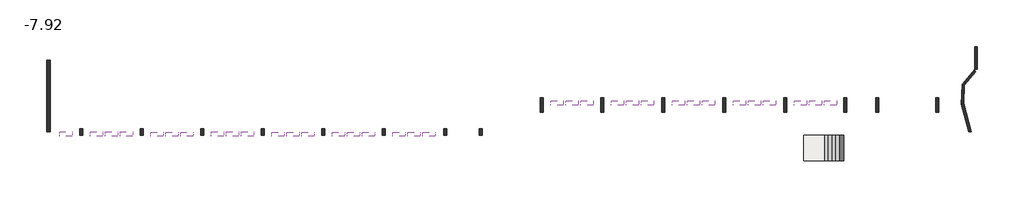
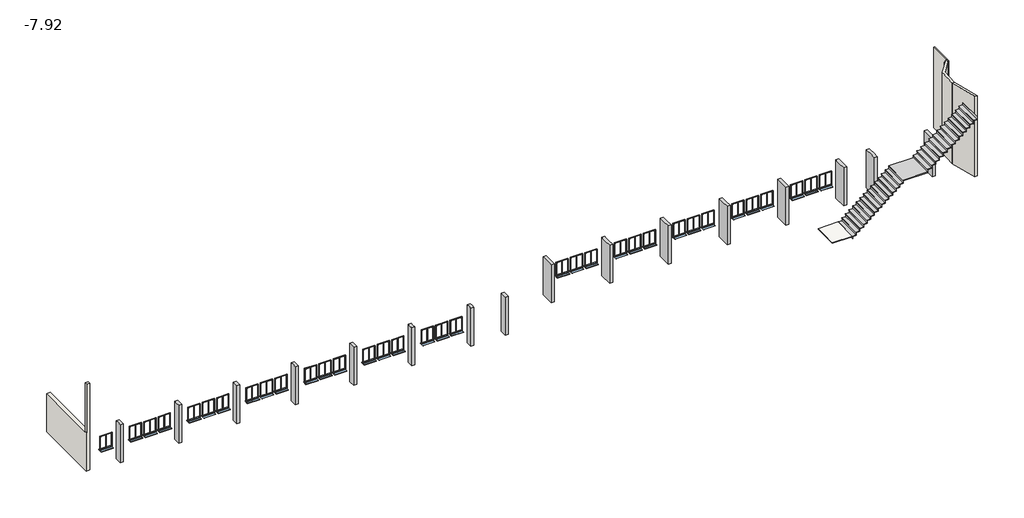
# One storey, incomplete: 34 windows, 16 columns, 5 walls, 1 slab, 1 stair flight.
"""IFC4 building model written with IfcOpenShell, lengths in millimetres."""

from ifc_helpers import new_model, si_unit, frame, origin, place, context, project, spatial, polyline, circle_curve, ellipse_curve, faceted_brep, transform, mapped, element, save
from ifc_brep_helpers import plane_surface, cylinder_surface, revolved_surface, advanced_brep
from components import non_monolithic_landing_f33ca80b, stair_flight_284d5711, finestra_doppia_125_x_100_cm_3431f0ed

model = new_model("IFC4")

# Units and contexts
model_context = context("Model", 3, world=origin())
ifc_project = project(units=[si_unit("LENGTHUNIT", "METRE", prefix="MILLI")], contexts=[model_context])

# Site, building, storey
site = spatial("IfcSite", under=ifc_project)
building = spatial("IfcBuilding", under=site)
storey = spatial("IfcBuildingStorey", under=building, Name="-7.92", Elevation=-7920.0)

# Columns
placement = place(None, origin())
element("IfcColumn", 1, ObjectType="Pilastro in calcestruzzo - Rettangolare : 250 x 1150", at=placement, inside=storey, context=model_context, shape_type="Brep", body=[
    faceted_brep([(68487.3573777, 26913.3920265, -7920.0), (68487.3573777, 25763.3920265, -7920.0), (68237.3573777, 25763.3920265, -7920.0), (68237.3573777, 26913.3920265, -7920.0), (68487.3573777, 26913.3920265, -4580.0), (68487.3573777, 26688.3920265, -4580.0), (68487.3573777, 26388.3920265, -4580.0), (68487.3573777, 25763.3920265, -4580.0), (68237.3573777, 25763.3920265, -4580.0), (68237.3573777, 26388.3920265, -4580.0), (68237.3573777, 26688.3920265, -4580.0), (68237.3573777, 26913.3920265, -4580.0)], [[[0, 1, 2, 3]], [[4, 5, 6, 7, 1, 0]], [[7, 8, 2, 1]], [[8, 9, 10, 11, 3, 2]], [[11, 4, 0, 3]], [[4, 11, 10, 9, 8, 7, 6, 5]]]),
])
element("IfcColumn", 2, ObjectType="Pilastro in calcestruzzo - Rettangolare : 250 x 1150", at=placement, inside=storey, context=model_context, shape_type="Brep", body=[
    faceted_brep([(53897.3573777, 26913.3920265, -7920.0), (53897.3573777, 25763.3920265, -7920.0), (53647.3573777, 25763.3920265, -7920.0), (53647.3573777, 26913.3920265, -7920.0), (53897.3573777, 26913.3920265, -4580.0), (53897.3573777, 26688.3920265, -4580.0), (53897.3573777, 26388.3920265, -4580.0), (53897.3573777, 25763.3920265, -4580.0), (53647.3573777, 25763.3920265, -4580.0), (53647.3573777, 26388.3920265, -4580.0), (53647.3573777, 26688.3920265, -4580.0), (53647.3573777, 26913.3920265, -4580.0), (53672.3573777, 26913.3920265, -4580.0), (53872.3573777, 26913.3920265, -4580.0)], [[[0, 1, 2, 3]], [[4, 5, 6, 7, 1, 0]], [[7, 8, 2, 1]], [[8, 9, 10, 11, 3, 2]], [[11, 12, 13, 4, 0, 3]], [[4, 13, 12, 11, 10, 9, 8, 7, 6, 5]]]),
])
element("IfcColumn", 3, ObjectType="Pilastro in calcestruzzo - Rettangolare : 250 x 1150", at=placement, inside=storey, context=model_context, shape_type="Brep", body=[
    faceted_brep([(58737.3573777, 26913.3920265, -7920.0), (58737.3573777, 25763.3920265, -7920.0), (58487.3573777, 25763.3920265, -7920.0), (58487.3573777, 26913.3920265, -7920.0), (58737.3573777, 26913.3920265, -4580.0), (58737.3573777, 26688.3920265, -4580.0), (58737.3573777, 26388.3920265, -4580.0), (58737.3573777, 25763.3920265, -4580.0), (58487.3573777, 25763.3920265, -4580.0), (58487.3573777, 26388.3920265, -4580.0), (58487.3573777, 26688.3920265, -4580.0), (58487.3573777, 26913.3920265, -4580.0)], [[[0, 1, 2, 3]], [[4, 5, 6, 7, 1, 0]], [[7, 8, 2, 1]], [[8, 9, 10, 11, 3, 2]], [[11, 4, 0, 3]], [[4, 11, 10, 9, 8, 7, 6, 5]]]),
])
element("IfcColumn", 4, ObjectType="Pilastro in calcestruzzo - Rettangolare : 250 x 1150", at=placement, inside=storey, context=model_context, shape_type="Brep", body=[
    faceted_brep([(63607.3573777, 26913.3920265, -7920.0), (63607.3573777, 25763.3920265, -7920.0), (63357.3573777, 25763.3920265, -7920.0), (63357.3573777, 26913.3920265, -7920.0), (63607.3573777, 26913.3920265, -4580.0), (63607.3573777, 26688.3920265, -4580.0), (63607.3573777, 26388.3920265, -4580.0), (63607.3573777, 25763.3920265, -4580.0), (63357.3573777, 25763.3920265, -4580.0), (63357.3573777, 26388.3920265, -4580.0), (63357.3573777, 26688.3920265, -4580.0), (63357.3573777, 26913.3920265, -4580.0)], [[[0, 1, 2, 3]], [[4, 5, 6, 7, 1, 0]], [[7, 8, 2, 1]], [[8, 9, 10, 11, 3, 2]], [[11, 4, 0, 3]], [[4, 11, 10, 9, 8, 7, 6, 5]]]),
])
element("IfcColumn", 5, ObjectType="Pilastro in calcestruzzo - Rettangolare : 250 x 1150", at=placement, inside=storey, context=model_context, shape_type="Brep", body=[
    faceted_brep([(73357.3573777, 26913.3920265, -7920.0), (73357.3573777, 25763.3920265, -7920.0), (73107.3573777, 25763.3920265, -7920.0), (73107.3573777, 26913.3920265, -7920.0), (73357.3573777, 26913.3920265, -4580.0), (73357.3573777, 26688.3920265, -4580.0), (73357.3573777, 26388.3920265, -4580.0), (73357.3573777, 25763.3920265, -4580.0), (73107.3573777, 25763.3920265, -4580.0), (73107.3573777, 26388.3920265, -4580.0), (73107.3573777, 26688.3920265, -4580.0), (73107.3573777, 26913.3920265, -4580.0)], [[[0, 1, 2, 3]], [[4, 5, 6, 7, 1, 0]], [[7, 8, 2, 1]], [[8, 9, 10, 11, 3, 2]], [[11, 4, 0, 3]], [[4, 11, 10, 9, 8, 7, 6, 5]]]),
])
element("IfcColumn", 6, ObjectType="Pilastro in calcestruzzo - Rettangolare : 250 x 1150", at=placement, inside=storey, context=model_context, shape_type="Brep", body=[
    faceted_brep([(78157.3573777, 26913.3920265, -7920.0), (78157.3573777, 25763.3920265, -7920.0), (77907.3573777, 25763.3920265, -7920.0), (77907.3573777, 26913.3920265, -7920.0), (78157.3573777, 26913.3920265, -4580.0), (78157.3573777, 25763.3920265, -4580.0), (77907.3573777, 25763.3920265, -4580.0), (77907.3573777, 26388.3920265, -4580.0), (77907.3573777, 26688.3920265, -4580.0), (77907.3573777, 26913.3920265, -4580.0)], [[[0, 1, 2, 3]], [[4, 5, 1, 0]], [[5, 6, 2, 1]], [[6, 7, 8, 9, 3, 2]], [[9, 4, 0, 3]], [[4, 9, 8, 7, 6, 5]]]),
])
element("IfcColumn", 7, ObjectType="Pilastro in calcestruzzo - Rettangolare : 250 x 1150", at=placement, inside=storey, context=model_context, shape_type="Brep", body=[
    faceted_brep([(80707.3573777, 26913.3920265, -7920.0), (80707.3573777, 25763.3920265, -7920.0), (80457.3573777, 25763.3920265, -7920.0), (80457.3573777, 26913.3920265, -7920.0), (80707.3573777, 26913.3920265, -4580.0), (80707.3573777, 26688.3920265, -4580.0), (80707.3573777, 26388.3920265, -4580.0), (80707.3573777, 25763.3920265, -4580.0), (80457.3573777, 25763.3920265, -4580.0), (80457.3573777, 26388.3920265, -4580.0), (80457.3573777, 26688.3920265, -4580.0), (80457.3573777, 26913.3920265, -4580.0)], [[[0, 1, 2, 3]], [[4, 5, 6, 7, 1, 0]], [[7, 8, 2, 1]], [[8, 9, 10, 11, 3, 2]], [[11, 4, 0, 3]], [[4, 11, 10, 9, 8, 7, 6, 5]]]),
])
element("IfcColumn", 8, ObjectType="Pilastro in calcestruzzo - Rettangolare : 250 x 1150", at=placement, inside=storey, context=model_context, shape_type="Brep", body=[
    faceted_brep([(85507.3573777, 26913.3920265, -7920.0), (85507.3573777, 25763.3920265, -7920.0), (85257.3573777, 25763.3920265, -7920.0), (85257.3573777, 26913.3920265, -7920.0), (85507.3573777, 26913.3920265, -4580.0), (85507.3573777, 26688.3920265, -4580.0), (85507.3573777, 26388.3920265, -4580.0), (85507.3573777, 25763.3920265, -4580.0), (85257.3573777, 25763.3920265, -4580.0), (85257.3573777, 26388.3920265, -4580.0), (85257.3573777, 26688.3920265, -4580.0), (85257.3573777, 26913.3920265, -4580.0)], [[[0, 1, 2, 3]], [[4, 5, 6, 7, 1, 0]], [[7, 8, 2, 1]], [[8, 9, 10, 11, 3, 2]], [[11, 4, 0, 3]], [[4, 11, 10, 9, 8, 7, 6, 5]]]),
])
element("IfcColumn", 9, ObjectType="Pilastro in calcestruzzo - Rettangolare : 250 x 550", at=placement, inside=storey, context=model_context, shape_type="Brep", body=[
    faceted_brep([(17067.3573777, 24463.3920265, -7920.0), (17067.3573777, 23913.3920265, -7920.0), (16817.3573777, 23913.3920265, -7920.0), (16817.3573777, 24463.3920265, -7920.0), (17067.3573777, 24463.3920265, -4580.0), (17067.3573777, 23913.3920265, -4580.0), (16817.3573777, 23913.3920265, -4580.0), (16817.3573777, 24213.3920265, -4580.0), (16817.3573777, 24463.3920265, -4580.0)], [[[0, 1, 2, 3]], [[4, 5, 1, 0]], [[5, 6, 2, 1]], [[6, 7, 8, 3, 2]], [[8, 4, 0, 3]], [[4, 8, 7, 6, 5]]]),
])
element("IfcColumn", 10, ObjectType="Pilastro in calcestruzzo - Rettangolare : 250 x 550", at=placement, inside=storey, context=model_context, shape_type="Brep", body=[
    faceted_brep([(49007.3573777, 24463.3920265, -7920.0), (49007.3573777, 23913.3920265, -7920.0), (48757.3573777, 23913.3920265, -7920.0), (48757.3573777, 24463.3920265, -7920.0), (49007.3573777, 24463.3920265, -4580.0), (49007.3573777, 24188.3920265, -4580.0), (49007.3573777, 23913.3920265, -4580.0), (48757.3573777, 23913.3920265, -4580.0), (48757.3573777, 24188.3920265, -4580.0), (48757.3573777, 24463.3920265, -4580.0)], [[[0, 1, 2, 3]], [[4, 5, 6, 1, 0]], [[6, 7, 2, 1]], [[7, 8, 9, 3, 2]], [[9, 4, 0, 3]], [[4, 9, 8, 7, 6, 5]]]),
])
element("IfcColumn", 11, ObjectType="Pilastro in calcestruzzo - Rettangolare : 250 x 550", at=placement, inside=storey, context=model_context, shape_type="Brep", body=[
    faceted_brep([(21907.3573777, 24463.3920265, -7920.0), (21907.3573777, 23913.3920265, -7920.0), (21657.3573777, 23913.3920265, -7920.0), (21657.3573777, 24463.3920265, -7920.0), (21907.3573777, 24463.3920265, -4580.0), (21907.3573777, 24188.3920265, -4580.0), (21907.3573777, 23913.3920265, -4580.0), (21657.3573777, 23913.3920265, -4580.0), (21657.3573777, 24213.3920265, -4580.0), (21657.3573777, 24463.3920265, -4580.0)], [[[0, 1, 2, 3]], [[4, 5, 6, 1, 0]], [[6, 7, 2, 1]], [[7, 8, 9, 3, 2]], [[9, 4, 0, 3]], [[4, 9, 8, 7, 6, 5]]]),
])
element("IfcColumn", 12, ObjectType="Pilastro in calcestruzzo - Rettangolare : 250 x 550", at=placement, inside=storey, context=model_context, shape_type="Brep", body=[
    faceted_brep([(26747.3573777, 24463.3920265, -7920.0), (26747.3573777, 23913.3920265, -7920.0), (26497.3573777, 23913.3920265, -7920.0), (26497.3573777, 24463.3920265, -7920.0), (26747.3573777, 24463.3920265, -4580.0), (26747.3573777, 24213.3920265, -4580.0), (26747.3573777, 23913.3920265, -4580.0), (26497.3573777, 23913.3920265, -4580.0), (26497.3573777, 24188.3920265, -4580.0), (26497.3573777, 24463.3920265, -4580.0)], [[[0, 1, 2, 3]], [[4, 5, 6, 1, 0]], [[6, 7, 2, 1]], [[7, 8, 9, 3, 2]], [[9, 4, 0, 3]], [[4, 9, 8, 7, 6, 5]]]),
])
element("IfcColumn", 13, ObjectType="Pilastro in calcestruzzo - Rettangolare : 250 x 550", at=placement, inside=storey, context=model_context, shape_type="Brep", body=[
    faceted_brep([(31587.3573777, 24463.3920265, -7920.0), (31587.3573777, 23913.3920265, -7920.0), (31337.3573777, 23913.3920265, -7920.0), (31337.3573777, 24463.3920265, -7920.0), (31587.3573777, 24463.3920265, -4580.0), (31587.3573777, 24188.3920265, -4580.0), (31587.3573777, 23913.3920265, -4580.0), (31337.3573777, 23913.3920265, -4580.0), (31337.3573777, 24213.3920265, -4580.0), (31337.3573777, 24463.3920265, -4580.0)], [[[0, 1, 2, 3]], [[4, 5, 6, 1, 0]], [[6, 7, 2, 1]], [[7, 8, 9, 3, 2]], [[9, 4, 0, 3]], [[4, 9, 8, 7, 6, 5]]]),
])
element("IfcColumn", 14, ObjectType="Pilastro in calcestruzzo - Rettangolare : 250 x 550", at=placement, inside=storey, context=model_context, shape_type="Brep", body=[
    faceted_brep([(36427.3573777, 24463.3920265, -7920.0), (36427.3573777, 23913.3920265, -7920.0), (36177.3573777, 23913.3920265, -7920.0), (36177.3573777, 24463.3920265, -7920.0), (36427.3573777, 24463.3920265, -4580.0), (36427.3573777, 24188.3920265, -4580.0), (36427.3573777, 23913.3920265, -4580.0), (36177.3573777, 23913.3920265, -4580.0), (36177.3573777, 24188.3920265, -4580.0), (36177.3573777, 24463.3920265, -4580.0)], [[[0, 1, 2, 3]], [[4, 5, 6, 1, 0]], [[6, 7, 2, 1]], [[7, 8, 9, 3, 2]], [[9, 4, 0, 3]], [[4, 9, 8, 7, 6, 5]]]),
])
element("IfcColumn", 15, ObjectType="Pilastro in calcestruzzo - Rettangolare : 250 x 550", at=placement, inside=storey, context=model_context, shape_type="Brep", body=[
    faceted_brep([(41267.3573777, 24463.3920265, -7920.0), (41267.3573777, 23913.3920265, -7920.0), (41017.3573777, 23913.3920265, -7920.0), (41017.3573777, 24463.3920265, -7920.0), (41267.3573777, 24463.3920265, -4580.0), (41267.3573777, 24188.3920265, -4580.0), (41267.3573777, 23913.3920265, -4580.0), (41017.3573777, 23913.3920265, -4580.0), (41017.3573777, 24188.3920265, -4580.0), (41017.3573777, 24463.3920265, -4580.0)], [[[0, 1, 2, 3]], [[4, 5, 6, 1, 0]], [[6, 7, 2, 1]], [[7, 8, 9, 3, 2]], [[9, 4, 0, 3]], [[4, 9, 8, 7, 6, 5]]]),
])
element("IfcColumn", 16, ObjectType="Pilastro in calcestruzzo - Rettangolare : 250 x 550", at=placement, inside=storey, context=model_context, shape_type="Brep", body=[
    faceted_brep([(46167.3573777, 24463.3920265, -7920.0), (46167.3573777, 23913.3920265, -7920.0), (45917.3573777, 23913.3920265, -7920.0), (45917.3573777, 24463.3920265, -7920.0), (46167.3573777, 24463.3920265, -4580.0), (46167.3573777, 24188.3920265, -4580.0), (46167.3573777, 23913.3920265, -4580.0), (45917.3573777, 23913.3920265, -4580.0), (45917.3573777, 24188.3920265, -4580.0), (45917.3573777, 24463.3920265, -4580.0)], [[[0, 1, 2, 3]], [[4, 5, 6, 1, 0]], [[6, 7, 2, 1]], [[7, 8, 9, 3, 2]], [[9, 4, 0, 3]], [[4, 9, 8, 7, 6, 5]]]),
])

# Slab
non_monolithic_landing_shape = non_monolithic_landing_f33ca80b(model_context)
element("IfcSlab", 17, ObjectType="Non-Monolithic Landing", at=placement, inside=storey, context=model_context, shape_type="MappedRepresentation", body=[
    mapped(non_monolithic_landing_shape, transform((0.0, 0.0, 0.0), x_axis=(1.0, 0.0, 0.0), y_axis=(0.0, 1.0, 0.0), z_axis=(0.0, 0.0, 1.0))),
])

# Stair flight
stair_flight_shape = stair_flight_284d5711(model_context)
element("IfcStairFlight", 18, ObjectType="2\" Tread 1\" Nosing 1/4\" Riser", at=placement, inside=storey, context=model_context, shape_type="MappedRepresentation", body=[
    mapped(stair_flight_shape, transform((0.0, 0.0, 0.0), x_axis=(1.0, 0.0, 0.0), y_axis=(0.0, 1.0, 0.0), z_axis=(0.0, 0.0, 1.0))),
])

# Walls
element("IfcWall", 19, ObjectType="muro 20cm", at=placement, inside=storey, context=model_context, shape_type="Brep", body=[
    faceted_brep([(88607.3573777, 29223.3920265, -7920.0), (88607.3573777, 31021.9947423, -7920.0), (88607.3573777, 31021.9947423, -3920.0), (88607.3573777, 29223.3920265, -3920.0), (88407.3573777, 29223.3920265, -7920.0), (88407.3573777, 29223.3920265, -869.2731189), (88407.3573777, 31021.9947423, -869.2731189), (88407.3573777, 31021.9947423, -7920.0), (88411.4542462, 29223.3920265, -7920.0), (88507.3573777, 29223.3920265, -3920.0), (88507.3573777, 29223.3920265, -870.0), (88411.4542462, 29223.3920265, -869.3028982), (88507.3573777, 31021.9947423, -3920.0), (88507.3573777, 31021.9947423, -870.0)], [[[0, 1, 2, 3]], [[4, 5, 6, 7]], [[1, 0, 8, 4, 7]], [[0, 3, 9, 10, 11, 5, 4, 8]], [[3, 2, 12, 9]], [[9, 12, 13, 10]], [[2, 1, 7, 6, 13, 12]], [[13, 6, 5, 11, 10]]]),
])
element("IfcWall", 20, ObjectType="muro 20cm", at=placement, inside=storey, context=model_context, shape_type="AdvancedBrep", body=[
    advanced_brep(
    [(88132.3754849, 29023.3920265, -7920.0), (88407.3573777, 29023.3920265, -7920.0), (88469.5354842, 29023.3920265, -7920.0), (88607.3573777, 29023.3920265, -7920.0), (88607.3573777, 29023.3920265, -3920.0), (88507.3573777, 29023.3920265, -3920.0), (88507.3573777, 29023.3920265, -870.0), (88469.5354842, 29023.3920265, -869.7250798), (88407.3573777, 29023.3920265, -869.2731189), (88132.3754849, 29023.3920265, -867.2743273), (88411.4542462, 29223.3920265, -7920.0), (88411.4542462, 29223.3920265, -869.3028982), (88507.3573777, 29223.3920265, -870.0), (88507.3573777, 29223.3920265, -3920.0), (88607.3573777, 29223.3920265, -3920.0), (88607.3573777, 29223.3920265, -7920.0)],
    [
        (0, 1),
        (1, 2),
        (2, 3),
        (3, 4),
        (4, 5),
        (5, 6),
        (6, 7),
        (7, 8),
        (8, 9),
        (9, 0),
        (10, 11),
        (11, 12),
        (12, 13),
        (13, 14),
        (14, 15),
        (15, 10),
        (0, 10, circle_curve(frame((89733.0070866, 27084.5929908, -7920.0), z_axis=(0.0, 0.0, -1.0), x_axis=(1.0, 0.0, 0.0)), 2514.1525859)),
        (15, 3),
        (9, 11, ellipse_curve(frame((89733.0070866, 27084.5929908, -878.9090166), z_axis=(-0.007268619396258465, 0.0, -0.9999735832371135), x_axis=(-0.9999735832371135, 0.0, 0.007268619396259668)), 2514.2190034, 2514.1525859)),
        (14, 4),
        (13, 5),
        (12, 6),
    ],
    [
        plane_surface(frame((88261.8640897, 29023.3920265, -7920.0), z_axis=(0.0, -1.0, 0.0), x_axis=(1.0, 0.0, 0.0))),
        plane_surface(frame((88261.8640897, 29223.3920265, -7920.0), z_axis=(0.0, 1.0, 0.0), x_axis=(-1.0, 0.0, 0.0))),
        plane_surface(frame((88440.1686589, 29023.3920265, -7920.0), z_axis=(0.0, 0.0, -1.0), x_axis=(0.0, 1.0, 0.0))),
        cylinder_surface(frame((89733.0070866, 27084.5929908, -7920.0), z_axis=(0.0, 0.0, 1.0), x_axis=(1.0, 0.0, 0.0)), 2514.1525859),
        plane_surface(frame((88607.3573777, 23913.3920265, -7920.0), z_axis=(1.0, 0.0, 0.0), x_axis=(0.0, 1.0, 0.0))),
        plane_surface(frame((88507.3573777, 29023.3920265, -3920.0), z_axis=(0.0, 0.0, 1.0), x_axis=(0.0, 1.0, 0.0))),
        plane_surface(frame((88507.3573777, 31021.9947423, -120.0), z_axis=(1.0, 0.0, 0.0), x_axis=(0.0, 0.0, 1.0))),
        plane_surface(frame((51362.3573777, 27467.6933844, -600.0), z_axis=(0.007268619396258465, 0.0, 0.9999735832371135), x_axis=(0.0, -1.0, 0.0))),
    ],
    [
        (0, [[1, 2, 3, 4, 5, 6, 7, 8, 9, 10]]),
        (1, [[11, 12, 13, 14, 15, 16]]),
        (2, [[-3, -2, -1, 17, -16, 18]]),
        (3, [[-10, 19, -11, -17]]),
        (4, [[-4, -18, -15, 20]]),
        (5, [[-5, -20, -14, 21]]),
        (6, [[-21, -13, 22, -6]]),
        (7, [[-9, -8, -7, -22, -12, -19]]),
    ],
),
])
element("IfcWall", 21, ObjectType="muro 20cm", at=placement, inside=storey, context=model_context, shape_type="AdvancedBrep", body=[
    advanced_brep(
    [(87500.3137156, 26476.0024043, -7920.0), (87307.3538058, 26423.4051304, -7920.0), (88407.3573777, 29220.8551645, -7920.0), (88407.3573777, 29023.3920265, -7920.0), (88469.5354842, 29023.3920265, -7920.0), (88469.5354842, 29023.3920265, -869.7250798), (87500.3137156, 26476.0024043, -862.6799895), (87307.3538058, 26423.4051304, -861.2774003), (88407.3573777, 29220.8551645, -869.2731189), (88407.3573777, 29023.3920265, -869.2731189)],
    [
        (0, 1),
        (1, 2, circle_curve(frame((89733.0070866, 27084.5929908, -7920.0), z_axis=(0.0, 0.0, -1.0), x_axis=(1.0, 0.0, 0.0)), 2514.1525859)),
        (2, 3),
        (3, 4),
        (4, 0, circle_curve(frame((89733.0070866, 27084.5929908, -7920.0), z_axis=(0.0, 0.0, 1.0), x_axis=(1.0, 0.0, 0.0)), 2314.1525859)),
        (5, 6, ellipse_curve(frame((89733.0070866, 27084.5929908, -878.9090166), z_axis=(0.007268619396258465, 0.0, 0.9999735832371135), x_axis=(0.9999735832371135, 0.0, -0.007268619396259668)), 2314.2137199, 2314.1525859)),
        (6, 0),
        (4, 5),
        (7, 8, ellipse_curve(frame((89733.0070866, 27084.5929908, -878.9090166), z_axis=(-0.007268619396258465, 0.0, -0.9999735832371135), x_axis=(-0.9999735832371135, 0.0, 0.007268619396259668)), 2514.2190034, 2514.1525859)),
        (8, 2),
        (1, 7),
        (6, 7),
        (8, 9),
        (9, 3),
        (9, 5),
    ],
    [
        plane_surface(frame((92047.1596725, 27084.5929908, -7920.0), z_axis=(0.0, 0.0, -1.0), x_axis=(0.0, 1.0, 0.0))),
        revolved_surface(polyline([(92047.1596725, 27084.5929908, -7920.0), (92047.1596725, 27084.5929908, -862.0878778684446)]), (89733.0070866, 27084.5929908, -7920.0), (0.0, 0.0, -1.0)),
        cylinder_surface(frame((89733.0070866, 27084.5929908, -7920.0), z_axis=(0.0, 0.0, 1.0), x_axis=(1.0, 0.0, 0.0)), 2514.1525859),
        plane_surface(frame((87307.3538058, 26423.4051304, -3920.0), z_axis=(0.2629863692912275, -0.9647995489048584, 0.0), x_axis=(0.0, 0.0, -1.0))),
        plane_surface(frame((88407.3573777, 30558.5318453, -8120.0), z_axis=(1.0, 0.0, 0.0), x_axis=(0.0, 1.0, 0.0))),
        plane_surface(frame((89942.4971965, 29023.3920265, -8120.0), z_axis=(0.0, 1.0, 0.0), x_axis=(-1.0, 0.0, 0.0))),
        plane_surface(frame((51362.3573777, 27467.6933844, -600.0), z_axis=(0.007268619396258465, 0.0, 0.9999735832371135), x_axis=(0.0, -1.0, 0.0))),
    ],
    [
        (0, [[1, 2, 3, 4, 5]]),
        (1, [[6, 7, -5, 8]]),
        (2, [[9, 10, -2, 11]]),
        (3, [[12, -11, -1, -7]]),
        (4, [[13, 14, -3, -10]]),
        (5, [[15, -8, -4, -14]]),
        (6, [[-6, -15, -13, -9, -12]]),
    ],
),
])
element("IfcWall", 22, ObjectType="muro 20cm", at=placement, inside=storey, context=model_context, shape_type="Brep", body=[
    faceted_brep([(87307.3573571, 26423.3920209, -861.2774262), (87307.3573571, 26423.3920209, -7920.0), (87910.0846283, 24213.3920265, -7920.0), (87910.0846283, 24213.3920265, -865.658537), (87500.3101214, 26476.0155021, -7920.0), (87500.3101214, 26476.0155021, -862.6799634), (88117.389251, 24213.3920265, -867.1653952), (88117.389251, 24213.3920265, -7920.0)], [[[0, 1, 2, 3]], [[4, 5, 6, 7]], [[2, 1, 4, 7]], [[0, 5, 4, 1]], [[0, 3, 6, 5]], [[3, 2, 7, 6]]]),
])
element("IfcWall", 23, ObjectType="muro 30cm", at=placement, inside=storey, context=model_context, shape_type="Brep", body=[
    faceted_brep([(14467.3573777, 24223.3920265, -7920.0), (14467.3573777, 29913.3920265, -7920.0), (14467.3573777, 29913.3920265, -4580.0), (14467.3573777, 24463.3920265, -4580.0), (14467.3573777, 24463.3920265, -331.8172029), (14467.3573777, 24223.3920265, -331.8172029), (14167.3573777, 24223.3920265, -7920.0), (14167.3573777, 24223.3920265, -4580.0), (14167.3573777, 24463.3920265, -4580.0), (14167.3573777, 29913.3920265, -4580.0), (14167.3573777, 29913.3920265, -7920.0), (14217.3573777, 24223.3920265, -330.0), (14217.3573777, 24223.3920265, -4580.0), (14217.3573777, 24463.3920265, -4580.0), (14217.3573777, 24463.3920265, -330.0)], [[[0, 1, 2, 3, 4, 5]], [[6, 7, 8, 9, 10]], [[1, 0, 6, 10]], [[9, 2, 1, 10]], [[0, 5, 11, 12, 7, 6]], [[13, 14, 4, 3]], [[5, 4, 14, 11]], [[3, 2, 9, 8, 7, 12, 13]], [[11, 14, 13, 12]]]),
])

# Windows
finestra_doppia_125_x_100_cm_shape = finestra_doppia_125_x_100_cm_3431f0ed(model_context)
element("IfcWindow", 24, ObjectType="Finestra Doppia : 125 x 100 cm", at=placement, inside=storey, context=model_context, shape_type="MappedRepresentation", body=[
    mapped(finestra_doppia_125_x_100_cm_shape, transform((18167.3573777, 24070.2547654, -7380.0), x_axis=(-1.0, 0.0, 0.0), y_axis=(0.0, -1.0, 0.0), z_axis=(0.0, 0.0, 1.0))),
])
element("IfcWindow", 25, ObjectType="Finestra Doppia : 125 x 100 cm", at=placement, inside=storey, context=model_context, shape_type="MappedRepresentation", body=[
    mapped(finestra_doppia_125_x_100_cm_shape, transform((19362.3573777, 24070.2547654, -7380.0), x_axis=(-1.0, 0.0, 0.0), y_axis=(0.0, -1.0, 0.0), z_axis=(0.0, 0.0, 1.0))),
])
element("IfcWindow", 26, ObjectType="Finestra Doppia : 125 x 100 cm", at=placement, inside=storey, context=model_context, shape_type="MappedRepresentation", body=[
    mapped(finestra_doppia_125_x_100_cm_shape, transform((20557.3573777, 24070.2547654, -7380.0), x_axis=(-1.0, 0.0, 0.0), y_axis=(0.0, -1.0, 0.0), z_axis=(0.0, 0.0, 1.0))),
])
element("IfcWindow", 27, ObjectType="Finestra Doppia : 125 x 100 cm", at=placement, inside=storey, context=model_context, shape_type="MappedRepresentation", body=[
    mapped(finestra_doppia_125_x_100_cm_shape, transform((54997.3573777, 26545.2547654, -7380.0), x_axis=(-1.0, 0.0, 0.0), y_axis=(0.0, -1.0, 0.0), z_axis=(0.0, 0.0, 1.0))),
])
element("IfcWindow", 28, ObjectType="Finestra Doppia : 125 x 100 cm", at=placement, inside=storey, context=model_context, shape_type="MappedRepresentation", body=[
    mapped(finestra_doppia_125_x_100_cm_shape, transform((56192.3573777, 26545.2547654, -7380.0), x_axis=(-1.0, 0.0, 0.0), y_axis=(0.0, -1.0, 0.0), z_axis=(0.0, 0.0, 1.0))),
])
element("IfcWindow", 29, ObjectType="Finestra Doppia : 125 x 100 cm", at=placement, inside=storey, context=model_context, shape_type="MappedRepresentation", body=[
    mapped(finestra_doppia_125_x_100_cm_shape, transform((57392.3573777, 26545.2547654, -7380.0), x_axis=(-1.0, 0.0, 0.0), y_axis=(0.0, -1.0, 0.0), z_axis=(0.0, 0.0, 1.0))),
])
element("IfcWindow", 30, ObjectType="Finestra Doppia : 125 x 100 cm", at=placement, inside=storey, context=model_context, shape_type="MappedRepresentation", body=[
    mapped(finestra_doppia_125_x_100_cm_shape, transform((59837.3573777, 26545.2547654, -7380.0), x_axis=(-1.0, 0.0, 0.0), y_axis=(0.0, -1.0, 0.0), z_axis=(0.0, 0.0, 1.0))),
])
element("IfcWindow", 31, ObjectType="Finestra Doppia : 125 x 100 cm", at=placement, inside=storey, context=model_context, shape_type="MappedRepresentation", body=[
    mapped(finestra_doppia_125_x_100_cm_shape, transform((61032.3573777, 26545.2547654, -7380.0), x_axis=(-1.0, 0.0, 0.0), y_axis=(0.0, -1.0, 0.0), z_axis=(0.0, 0.0, 1.0))),
])
element("IfcWindow", 32, ObjectType="Finestra Doppia : 125 x 100 cm", at=placement, inside=storey, context=model_context, shape_type="MappedRepresentation", body=[
    mapped(finestra_doppia_125_x_100_cm_shape, transform((62232.3573777, 26545.2547654, -7380.0), x_axis=(-1.0, 0.0, 0.0), y_axis=(0.0, -1.0, 0.0), z_axis=(0.0, 0.0, 1.0))),
])
element("IfcWindow", 33, ObjectType="Finestra Doppia : 125 x 100 cm", at=placement, inside=storey, context=model_context, shape_type="MappedRepresentation", body=[
    mapped(finestra_doppia_125_x_100_cm_shape, transform((64707.3573777, 26545.2547654, -7380.0), x_axis=(-1.0, 0.0, 0.0), y_axis=(0.0, -1.0, 0.0), z_axis=(0.0, 0.0, 1.0))),
])
element("IfcWindow", 34, ObjectType="Finestra Doppia : 125 x 100 cm", at=placement, inside=storey, context=model_context, shape_type="MappedRepresentation", body=[
    mapped(finestra_doppia_125_x_100_cm_shape, transform((65902.3573777, 26545.2547654, -7380.0), x_axis=(-1.0, 0.0, 0.0), y_axis=(0.0, -1.0, 0.0), z_axis=(0.0, 0.0, 1.0))),
])
element("IfcWindow", 35, ObjectType="Finestra Doppia : 125 x 100 cm", at=placement, inside=storey, context=model_context, shape_type="MappedRepresentation", body=[
    mapped(finestra_doppia_125_x_100_cm_shape, transform((67102.3573777, 26545.2547654, -7380.0), x_axis=(-1.0, 0.0, 0.0), y_axis=(0.0, -1.0, 0.0), z_axis=(0.0, 0.0, 1.0))),
])
element("IfcWindow", 36, ObjectType="Finestra Doppia : 125 x 100 cm", at=placement, inside=storey, context=model_context, shape_type="MappedRepresentation", body=[
    mapped(finestra_doppia_125_x_100_cm_shape, transform((69587.3573777, 26545.2547654, -7380.0), x_axis=(-1.0, 0.0, 0.0), y_axis=(0.0, -1.0, 0.0), z_axis=(0.0, 0.0, 1.0))),
])
element("IfcWindow", 37, ObjectType="Finestra Doppia : 125 x 100 cm", at=placement, inside=storey, context=model_context, shape_type="MappedRepresentation", body=[
    mapped(finestra_doppia_125_x_100_cm_shape, transform((70782.3573777, 26545.2547654, -7380.0), x_axis=(-1.0, 0.0, 0.0), y_axis=(0.0, -1.0, 0.0), z_axis=(0.0, 0.0, 1.0))),
])
element("IfcWindow", 38, ObjectType="Finestra Doppia : 125 x 100 cm", at=placement, inside=storey, context=model_context, shape_type="MappedRepresentation", body=[
    mapped(finestra_doppia_125_x_100_cm_shape, transform((71982.3573777, 26545.2547654, -7380.0), x_axis=(-1.0, 0.0, 0.0), y_axis=(0.0, -1.0, 0.0), z_axis=(0.0, 0.0, 1.0))),
])
element("IfcWindow", 39, ObjectType="Finestra Doppia : 125 x 100 cm", at=placement, inside=storey, context=model_context, shape_type="MappedRepresentation", body=[
    mapped(finestra_doppia_125_x_100_cm_shape, transform((74457.3573777, 26545.2547654, -7380.0), x_axis=(-1.0, 0.0, 0.0), y_axis=(0.0, -1.0, 0.0), z_axis=(0.0, 0.0, 1.0))),
])
element("IfcWindow", 40, ObjectType="Finestra Doppia : 125 x 100 cm", at=placement, inside=storey, context=model_context, shape_type="MappedRepresentation", body=[
    mapped(finestra_doppia_125_x_100_cm_shape, transform((75652.3573777, 26545.2547654, -7380.0), x_axis=(-1.0, 0.0, 0.0), y_axis=(0.0, -1.0, 0.0), z_axis=(0.0, 0.0, 1.0))),
])
element("IfcWindow", 41, ObjectType="Finestra Doppia : 125 x 100 cm", at=placement, inside=storey, context=model_context, shape_type="MappedRepresentation", body=[
    mapped(finestra_doppia_125_x_100_cm_shape, transform((76852.3573777, 26545.2547654, -7380.0), x_axis=(-1.0, 0.0, 0.0), y_axis=(0.0, -1.0, 0.0), z_axis=(0.0, 0.0, 1.0))),
])
element("IfcWindow", 42, ObjectType="Finestra Doppia : 125 x 100 cm", at=placement, inside=storey, context=model_context, shape_type="MappedRepresentation", body=[
    mapped(finestra_doppia_125_x_100_cm_shape, transform((23007.3573777, 24045.2547654, -7380.0), x_axis=(-1.0, 0.0, 0.0), y_axis=(0.0, -1.0, 0.0), z_axis=(0.0, 0.0, 1.0))),
])
element("IfcWindow", 43, ObjectType="Finestra Doppia : 125 x 100 cm", at=placement, inside=storey, context=model_context, shape_type="MappedRepresentation", body=[
    mapped(finestra_doppia_125_x_100_cm_shape, transform((24202.3573777, 24045.2547654, -7380.0), x_axis=(-1.0, 0.0, 0.0), y_axis=(0.0, -1.0, 0.0), z_axis=(0.0, 0.0, 1.0))),
])
element("IfcWindow", 44, ObjectType="Finestra Doppia : 125 x 100 cm", at=placement, inside=storey, context=model_context, shape_type="MappedRepresentation", body=[
    mapped(finestra_doppia_125_x_100_cm_shape, transform((25397.3573777, 24045.2547654, -7380.0), x_axis=(-1.0, 0.0, 0.0), y_axis=(0.0, -1.0, 0.0), z_axis=(0.0, 0.0, 1.0))),
])
element("IfcWindow", 45, ObjectType="Finestra Doppia : 125 x 100 cm", at=placement, inside=storey, context=model_context, shape_type="MappedRepresentation", body=[
    mapped(finestra_doppia_125_x_100_cm_shape, transform((27847.3573777, 24070.2547654, -7380.0), x_axis=(-1.0, 0.0, 0.0), y_axis=(0.0, -1.0, 0.0), z_axis=(0.0, 0.0, 1.0))),
])
element("IfcWindow", 46, ObjectType="Finestra Doppia : 125 x 100 cm", at=placement, inside=storey, context=model_context, shape_type="MappedRepresentation", body=[
    mapped(finestra_doppia_125_x_100_cm_shape, transform((29042.3573777, 24070.2547654, -7380.0), x_axis=(-1.0, 0.0, 0.0), y_axis=(0.0, -1.0, 0.0), z_axis=(0.0, 0.0, 1.0))),
])
element("IfcWindow", 47, ObjectType="Finestra Doppia : 125 x 100 cm", at=placement, inside=storey, context=model_context, shape_type="MappedRepresentation", body=[
    mapped(finestra_doppia_125_x_100_cm_shape, transform((30237.3573777, 24070.2547654, -7380.0), x_axis=(-1.0, 0.0, 0.0), y_axis=(0.0, -1.0, 0.0), z_axis=(0.0, 0.0, 1.0))),
])
element("IfcWindow", 48, ObjectType="Finestra Doppia : 125 x 100 cm", at=placement, inside=storey, context=model_context, shape_type="MappedRepresentation", body=[
    mapped(finestra_doppia_125_x_100_cm_shape, transform((32687.3573777, 24045.2547654, -7380.0), x_axis=(-1.0, 0.0, 0.0), y_axis=(0.0, -1.0, 0.0), z_axis=(0.0, 0.0, 1.0))),
])
element("IfcWindow", 49, ObjectType="Finestra Doppia : 125 x 100 cm", at=placement, inside=storey, context=model_context, shape_type="MappedRepresentation", body=[
    mapped(finestra_doppia_125_x_100_cm_shape, transform((33882.3573777, 24045.2547654, -7380.0), x_axis=(-1.0, 0.0, 0.0), y_axis=(0.0, -1.0, 0.0), z_axis=(0.0, 0.0, 1.0))),
])
element("IfcWindow", 50, ObjectType="Finestra Doppia : 125 x 100 cm", at=placement, inside=storey, context=model_context, shape_type="MappedRepresentation", body=[
    mapped(finestra_doppia_125_x_100_cm_shape, transform((35077.3573777, 24045.2547654, -7380.0), x_axis=(-1.0, 0.0, 0.0), y_axis=(0.0, -1.0, 0.0), z_axis=(0.0, 0.0, 1.0))),
])
element("IfcWindow", 51, ObjectType="Finestra Doppia : 125 x 100 cm", at=placement, inside=storey, context=model_context, shape_type="MappedRepresentation", body=[
    mapped(finestra_doppia_125_x_100_cm_shape, transform((37527.3573777, 24045.2547654, -7380.0), x_axis=(-1.0, 0.0, 0.0), y_axis=(0.0, -1.0, 0.0), z_axis=(0.0, 0.0, 1.0))),
])
element("IfcWindow", 52, ObjectType="Finestra Doppia : 125 x 100 cm", at=placement, inside=storey, context=model_context, shape_type="MappedRepresentation", body=[
    mapped(finestra_doppia_125_x_100_cm_shape, transform((38722.3573777, 24045.2547654, -7380.0), x_axis=(-1.0, 0.0, 0.0), y_axis=(0.0, -1.0, 0.0), z_axis=(0.0, 0.0, 1.0))),
])
element("IfcWindow", 53, ObjectType="Finestra Doppia : 125 x 100 cm", at=placement, inside=storey, context=model_context, shape_type="MappedRepresentation", body=[
    mapped(finestra_doppia_125_x_100_cm_shape, transform((39917.3573777, 24045.2547654, -7380.0), x_axis=(-1.0, 0.0, 0.0), y_axis=(0.0, -1.0, 0.0), z_axis=(0.0, 0.0, 1.0))),
])
element("IfcWindow", 54, ObjectType="Finestra Doppia : 125 x 100 cm", at=placement, inside=storey, context=model_context, shape_type="MappedRepresentation", body=[
    mapped(finestra_doppia_125_x_100_cm_shape, transform((42367.3573777, 24045.2547654, -7380.0), x_axis=(-1.0, 0.0, 0.0), y_axis=(0.0, -1.0, 0.0), z_axis=(0.0, 0.0, 1.0))),
])
element("IfcWindow", 55, ObjectType="Finestra Doppia : 125 x 100 cm", at=placement, inside=storey, context=model_context, shape_type="MappedRepresentation", body=[
    mapped(finestra_doppia_125_x_100_cm_shape, transform((43562.3573777, 24045.2547654, -7380.0), x_axis=(-1.0, 0.0, 0.0), y_axis=(0.0, -1.0, 0.0), z_axis=(0.0, 0.0, 1.0))),
])
element("IfcWindow", 56, ObjectType="Finestra Doppia : 125 x 100 cm", at=placement, inside=storey, context=model_context, shape_type="MappedRepresentation", body=[
    mapped(finestra_doppia_125_x_100_cm_shape, transform((44757.3573777, 24045.2547654, -7380.0), x_axis=(-1.0, 0.0, 0.0), y_axis=(0.0, -1.0, 0.0), z_axis=(0.0, 0.0, 1.0))),
])
element("IfcWindow", 57, ObjectType="Finestra Doppia : 125 x 100 cm", at=placement, inside=storey, context=model_context, shape_type="MappedRepresentation", body=[
    mapped(finestra_doppia_125_x_100_cm_shape, transform((15717.3573777, 24070.2547654, -7380.0), x_axis=(-1.0, 0.0, 0.0), y_axis=(0.0, -1.0, 0.0), z_axis=(0.0, 0.0, 1.0))),
])

save(model, "model.ifc")
